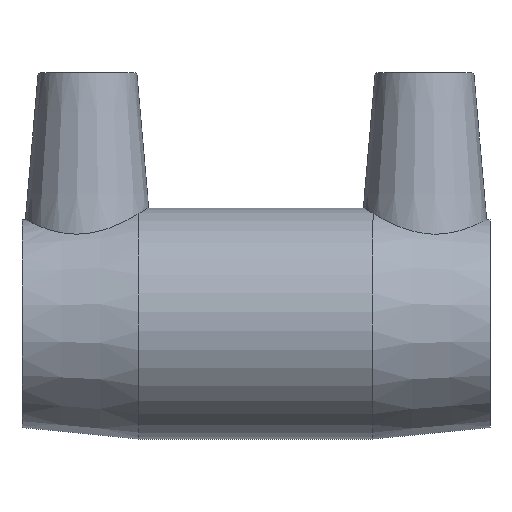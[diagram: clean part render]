
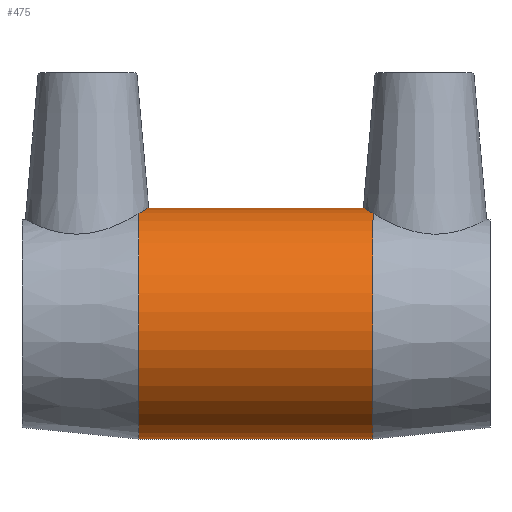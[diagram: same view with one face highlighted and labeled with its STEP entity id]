
A CAD part, top view. The second image highlights one B-rep face of the part: STEP entity #475.
In plain terms, the highlighted cylindrical face has radius 17.526 mm (diameter 35.052 mm), a full revolution.
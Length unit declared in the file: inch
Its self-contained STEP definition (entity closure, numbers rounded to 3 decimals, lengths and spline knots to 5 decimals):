
#47=LINE('',#902,#63);
#63=VECTOR('',#649,0.69);
#77=CYLINDRICAL_SURFACE('',#537,0.69);
#97=FACE_OUTER_BOUND('',#131,.T.);
#131=EDGE_LOOP('',(#357,#358,#359,#360,#361,#362,#363,#364));
#163=CIRCLE('',#533,0.69);
#164=CIRCLE('',#536,0.69);
#165=CIRCLE('',#538,0.69);
#166=CIRCLE('',#539,0.69);
#167=CIRCLE('',#540,0.69);
#168=CIRCLE('',#541,0.69);
#207=VERTEX_POINT('',#785);
#210=VERTEX_POINT('',#810);
#211=VERTEX_POINT('',#843);
#213=VERTEX_POINT('',#853);
#215=VERTEX_POINT('',#899);
#216=VERTEX_POINT('',#901);
#264=EDGE_CURVE('',#210,#207,#163,.T.);
#270=EDGE_CURVE('',#213,#211,#164,.T.);
#271=EDGE_CURVE('',#215,#210,#165,.T.);
#272=EDGE_CURVE('',#215,#216,#47,.T.);
#273=EDGE_CURVE('',#216,#213,#166,.T.);
#274=EDGE_CURVE('',#211,#216,#167,.T.);
#275=EDGE_CURVE('',#207,#215,#168,.T.);
#357=ORIENTED_EDGE('',*,*,#264,.F.);
#358=ORIENTED_EDGE('',*,*,#271,.F.);
#359=ORIENTED_EDGE('',*,*,#272,.T.);
#360=ORIENTED_EDGE('',*,*,#273,.T.);
#361=ORIENTED_EDGE('',*,*,#270,.T.);
#362=ORIENTED_EDGE('',*,*,#274,.T.);
#363=ORIENTED_EDGE('',*,*,#272,.F.);
#364=ORIENTED_EDGE('',*,*,#275,.F.);
#475=ADVANCED_FACE('',(#97),#77,.T.);
#533=AXIS2_PLACEMENT_3D('',#841,#636,#637);
#536=AXIS2_PLACEMENT_3D('',#897,#643,#644);
#537=AXIS2_PLACEMENT_3D('',#898,#645,#646);
#538=AXIS2_PLACEMENT_3D('',#900,#647,#648);
#539=AXIS2_PLACEMENT_3D('',#903,#650,#651);
#540=AXIS2_PLACEMENT_3D('',#904,#652,#653);
#541=AXIS2_PLACEMENT_3D('',#905,#654,#655);
#636=DIRECTION('center_axis',(1.,0.,0.));
#637=DIRECTION('ref_axis',(0.,0.,-1.));
#643=DIRECTION('center_axis',(1.,0.,0.));
#644=DIRECTION('ref_axis',(0.,0.,-1.));
#645=DIRECTION('center_axis',(1.,0.,0.));
#646=DIRECTION('ref_axis',(0.,1.,0.));
#647=DIRECTION('center_axis',(1.,0.,0.));
#648=DIRECTION('ref_axis',(0.,0.,-1.));
#649=DIRECTION('',(-1.,0.,0.));
#650=DIRECTION('center_axis',(1.,0.,0.));
#651=DIRECTION('ref_axis',(0.,0.,-1.));
#652=DIRECTION('center_axis',(1.,0.,0.));
#653=DIRECTION('ref_axis',(0.,0.,-1.));
#654=DIRECTION('center_axis',(1.,0.,0.));
#655=DIRECTION('ref_axis',(0.,0.,-1.));
#785=CARTESIAN_POINT('',(0.7,0.6595,0.20287));
#810=CARTESIAN_POINT('',(0.7,0.6595,-0.20287));
#841=CARTESIAN_POINT('Origin',(0.7,0.,0.));
#843=CARTESIAN_POINT('',(-0.7,0.6595,0.20287));
#853=CARTESIAN_POINT('',(-0.7,0.6595,-0.20287));
#897=CARTESIAN_POINT('Origin',(-0.7,0.,0.));
#898=CARTESIAN_POINT('Origin',(0.,0.,0.));
#899=CARTESIAN_POINT('',(0.7,-0.69,0.));
#900=CARTESIAN_POINT('Origin',(0.7,0.,0.));
#901=CARTESIAN_POINT('',(-0.7,-0.69,0.));
#902=CARTESIAN_POINT('',(0.,-0.69,0.));
#903=CARTESIAN_POINT('Origin',(-0.7,0.,0.));
#904=CARTESIAN_POINT('Origin',(-0.7,0.,0.));
#905=CARTESIAN_POINT('Origin',(0.7,0.,0.));
